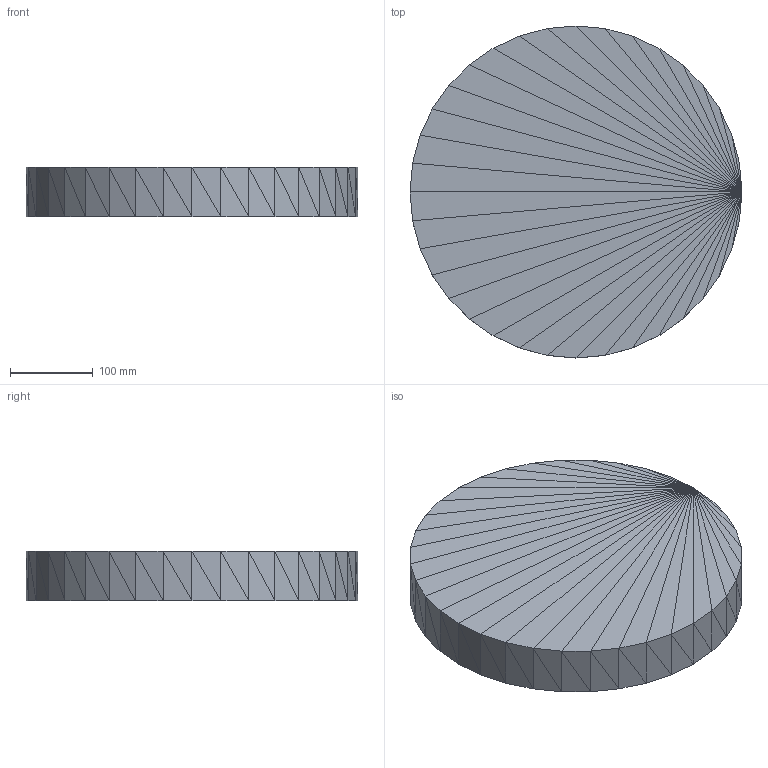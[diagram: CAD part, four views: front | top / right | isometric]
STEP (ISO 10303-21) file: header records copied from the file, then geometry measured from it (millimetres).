
FILE_DESCRIPTION(('ISINAC STEP AP214'),'2;1');
FILE_NAME('ISINAC_CIR.400_60mm_ADHESIVO','2026-05-03T10:49:19',('ISINAC'),('www.isinac.com'),'ISINAC BIM Generator 1.0','','');
FILE_SCHEMA(('AUTOMOTIVE_DESIGN'));
Length unit declared in the file: millimetre
Products named in the file (1): ISINAC_CIR.400_60mm_ADHESIVO
Bounding box: 400 x 400 x 60 mm (x, y, z)
Surface area: 325356 mm2 (no closed solid volume)
Topology: 0 solids, 140 shells, 140 faces, 420 edges, 420 vertices
Faces by surface type: plane 140
Entity records: 1553 total; most frequent: CARTESIAN_POINT 560, DIRECTION 280, POLY_LOOP 140, FACE_OUTER_BOUND 140, AXIS2_PLACEMENT_3D 140, PLANE 140, FACE_SURFACE 140, CLOSED_SHELL 1
